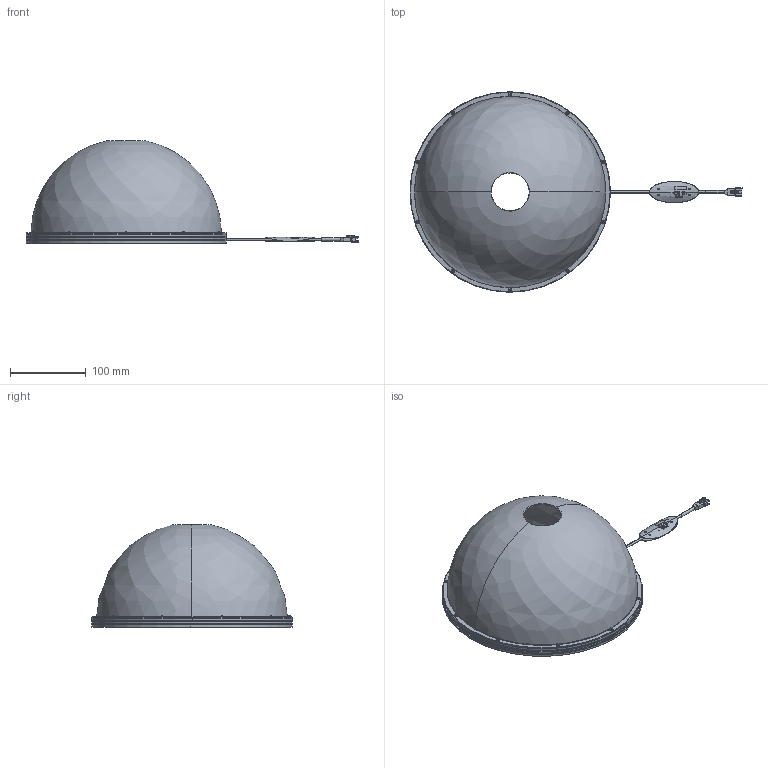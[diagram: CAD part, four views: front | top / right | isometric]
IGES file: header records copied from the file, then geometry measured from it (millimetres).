
Start section: 3D InterOp IGES (v. 2019 1.0.2), Spatial Corp. Copyright (c) 1999-2017.
Global section: file name: VDO-265_DRAWING_3D.iges; native system: Spatial Corp.; preprocessor: 3D InterOp ACIS/IGES; author: Noname; organization: Noname; date: 20230912.194614; units: millimetre
Bounding box: 439 x 265 x 135.39 mm (x, y, z)
Surface area: 314615.8 mm2 (no closed solid volume)
Topology: 0 solids, 0 shells, 853 faces, 4642 edges, 4555 vertices
Faces by surface type: extrusion 457, revolution 390, bspline 6
